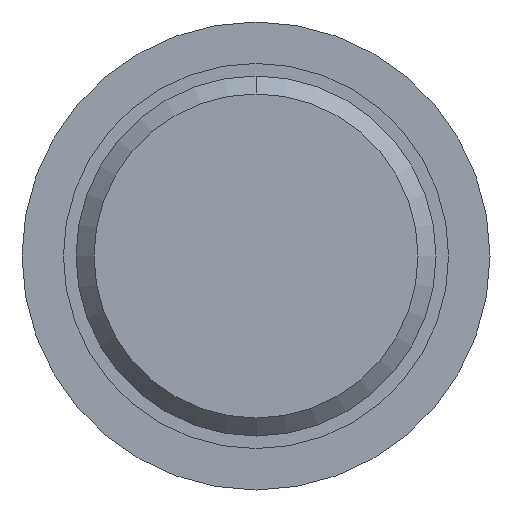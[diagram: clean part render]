
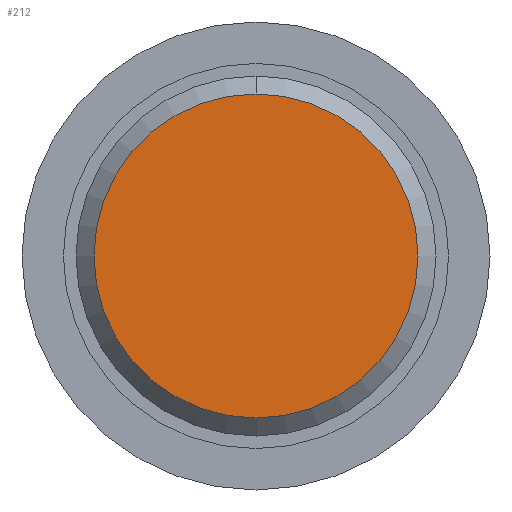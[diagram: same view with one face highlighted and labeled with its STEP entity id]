
A CAD part, front view. The second image highlights one B-rep face of the part: STEP entity #212.
In plain terms, the highlighted planar face has unit normal (0, -1, 0).
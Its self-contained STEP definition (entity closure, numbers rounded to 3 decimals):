
#5=CARTESIAN_POINT('',(0.,0.,0.));
#6=DIRECTION('',(0.,-1.,0.));
#7=DIRECTION('',(0.,0.,-1.));
#8=AXIS2_PLACEMENT_3D('',#5,#6,#7);
#14=CARTESIAN_POINT('',(0.,0.,0.));
#15=DIRECTION('',(0.,1.,0.));
#16=DIRECTION('',(0.,0.,-1.));
#17=AXIS2_PLACEMENT_3D('',#14,#15,#16);
#159=CARTESIAN_POINT('',(0.,0.,-0.9));
#161=VERTEX_POINT('',#159);
#181=CARTESIAN_POINT('',(0.,0.,0.9));
#183=VERTEX_POINT('',#181);
#201=CARTESIAN_POINT('',(0.,0.,0.));
#202=DIRECTION('',(0.,1.,0.));
#203=DIRECTION('',(0.,0.,-1.));
#204=AXIS2_PLACEMENT_3D('',#201,#202,#203);
#205=PLANE('',#204);
#207=ORIENTED_EDGE('',*,*,#206,.F.);
#209=ORIENTED_EDGE('',*,*,#208,.T.);
#210=EDGE_LOOP('',(#207,#209));
#211=FACE_OUTER_BOUND('',#210,.F.);
#212=ADVANCED_FACE('',(#211),#205,.F.);
#9=CIRCLE('',#8,0.9);
#18=CIRCLE('',#17,0.9);
#206=EDGE_CURVE('',#161,#183,#9,.T.);
#208=EDGE_CURVE('',#161,#183,#18,.T.);
